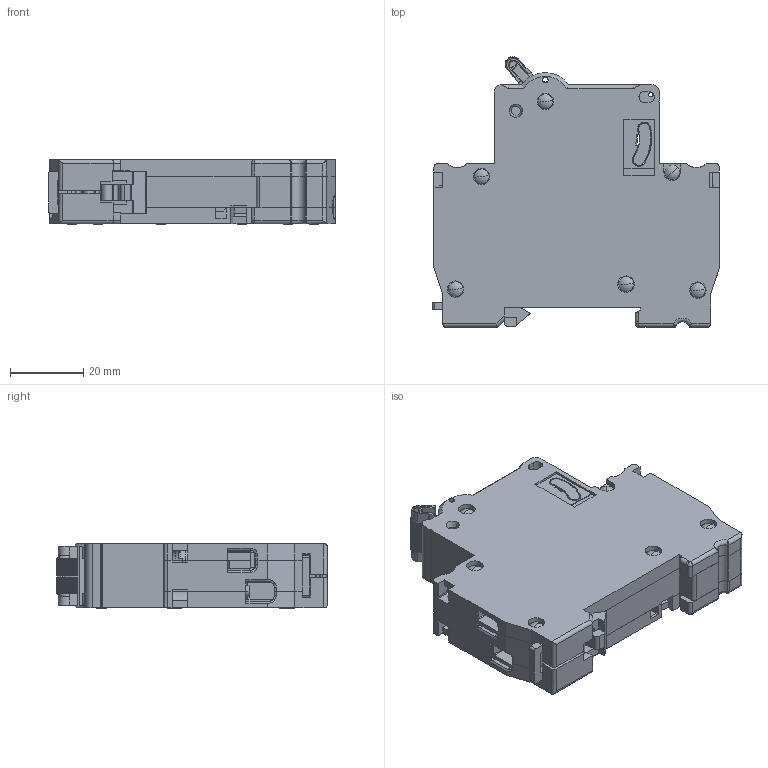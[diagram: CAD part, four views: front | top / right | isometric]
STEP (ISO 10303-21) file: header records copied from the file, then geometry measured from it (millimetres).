
FILE_DESCRIPTION (( 'STEP AP203' ), '1' );
FILE_NAME ('NDB1-40.STEP', '2017-10-16T03:13:38', ( '' ), ( '' ), 'SwSTEP 2.0', 'SolidWorks 2011', '' );
FILE_SCHEMA (( 'CONFIG_CONTROL_DESIGN' ));
Length unit declared in the file: millimetre
Products named in the file (11): NDB1-40; 8LD.315.1318; 8LD.271.100; 8LD.967.1005; 5LD.574.1090; 8LD.516.1220; 8LD.907.1009; 8LD.039.1007; 8LD.253.1184; 8LD.315.1317; 8LD.024.1293
Assembly tree (18 placements, depth 3):
  NDB1-40
    8LD.024.1293
    5LD.574.1090  x4
      8LD.516.1220
      8LD.907.1009
    8LD.315.1317
    8LD.315.1318
    8LD.271.100
    8LD.967.1005  x6
    8LD.039.1007
    8LD.253.1184
Bounding box: 78.2 x 73.76 x 17.6 mm (x, y, z)
Volume: 32466.6 mm3; surface area: 52549.1 mm2
Topology: 20 solids, 20 shells, 5124 faces, 13704 edges, 8502 vertices
Faces by surface type: plane 3019, cylinder 1579, sphere 230, cone 194, torus 59, bspline 43
Entity records: 132531 total; most frequent: CARTESIAN_POINT 26583, ORIENTED_EDGE 22340, DIRECTION 21419, EDGE_CURVE 11170, VECTOR 8083, LINE 8083, VERTEX_POINT 7209, AXIS2_PLACEMENT_3D 6668
